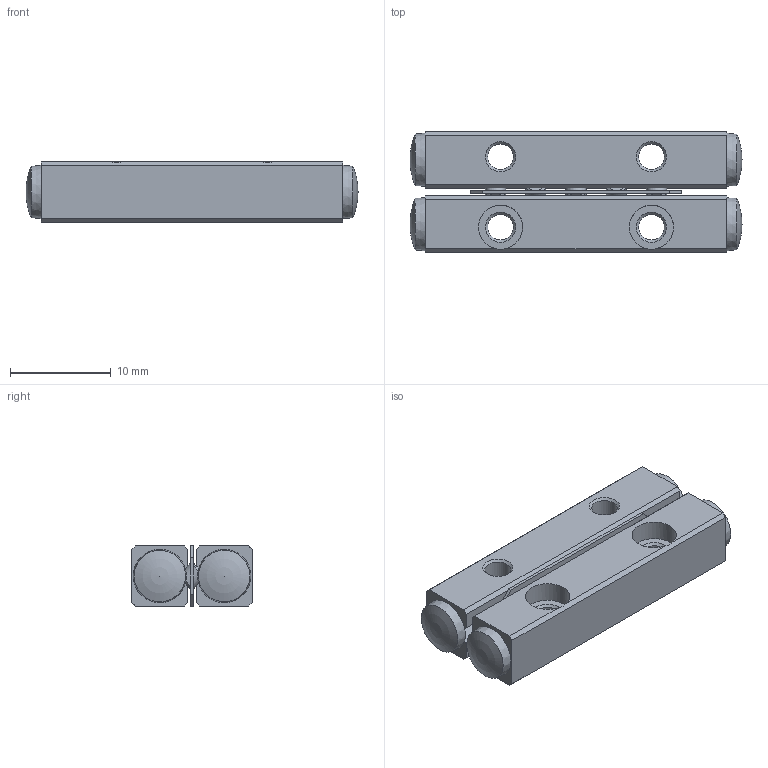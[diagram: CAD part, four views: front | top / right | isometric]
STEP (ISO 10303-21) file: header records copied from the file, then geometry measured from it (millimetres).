
FILE_DESCRIPTION(/* description */ ('STEP AP214'),/* implementation_level */ '2;1');
FILE_NAME(/* name */ 'VR2-30HX5Z(0)',/* time_stamp */ '2024-09-18T01:44:05+02:00',/* author */ ('License CC BY-ND 4.0'),/* organization */ ('CADENAS'),/* preprocessor_version */ 'ST-DEVELOPER v19.3',/* originating_system */ 'PARTsolutions',/* authorisation */ ' ');
FILE_SCHEMA (('AUTOMOTIVE_DESIGN {1 0 10303 214 3 1 1}'));
Length unit declared in the file: millimetre
Products named in the file (4): VR2-30HX5Z(0); VR2-30*5Z Roller guide; VR2-30*5Z Roller cage; VR2-30*5Z Roller guide; Top
Assembly tree (3 placements, depth 2):
  VR2-30HX5Z(0)
    VR2-30*5Z Roller guide
    VR2-30*5Z Roller cage
    VR2-30*5Z Roller guide; Top
Bounding box: 33 x 12 x 6 mm (x, y, z)
Volume: 1899.1 mm3; surface area: 2085.8 mm2
Topology: 3 solids, 3 shells, 123 faces, 337 edges, 216 vertices
Faces by surface type: plane 84, cone 22, cylinder 13, torus 4
Full cylindrical faces by diameter (mm): 2 x5, 2.55 x4, 4.4 x4
Entity records: 3697 total; most frequent: DIRECTION 616, CARTESIAN_POINT 613, ORIENTED_EDGE 564, EDGE_CURVE 282, AXIS2_PLACEMENT_3D 207, VERTEX_POINT 204, LINE 202, VECTOR 202
